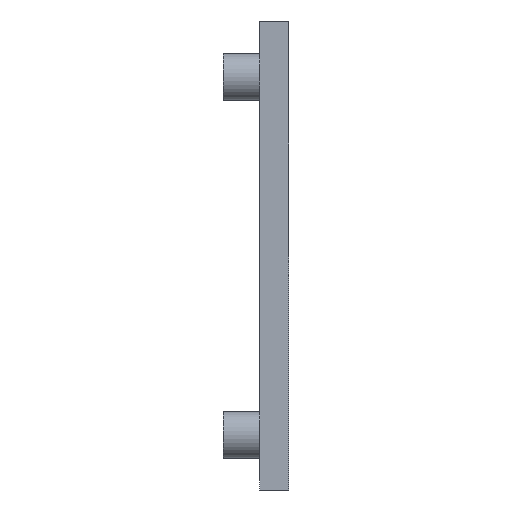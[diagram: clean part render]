
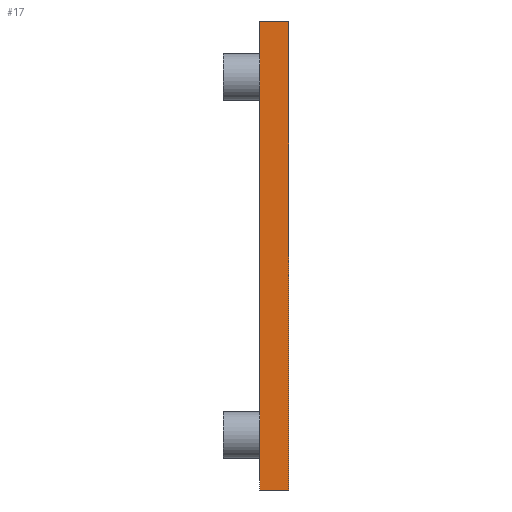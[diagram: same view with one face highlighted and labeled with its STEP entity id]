
A CAD part, left-side view. The second image highlights one B-rep face of the part: STEP entity #17.
In plain terms, the highlighted planar face has unit normal (-1, 0, 0).
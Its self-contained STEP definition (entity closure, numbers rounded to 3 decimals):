
#17 = ADVANCED_FACE('',(#18),#32,.F.);
#18 = FACE_BOUND('',#19,.F.);
#19 = EDGE_LOOP('',(#20,#55,#83,#111));
#20 = ORIENTED_EDGE('',*,*,#21,.F.);
#21 = EDGE_CURVE('',#22,#24,#26,.T.);
#22 = VERTEX_POINT('',#23);
#23 = CARTESIAN_POINT('',(-46.5,-4.,-32.));
#24 = VERTEX_POINT('',#25);
#25 = CARTESIAN_POINT('',(-46.5,-4.,32.));
#26 = SURFACE_CURVE('',#27,(#31,#43),.PCURVE_S1.);
#27 = LINE('',#28,#29);
#28 = CARTESIAN_POINT('',(-46.5,-4.,-32.));
#29 = VECTOR('',#30,1.);
#30 = DIRECTION('',(0.,0.,1.));
#31 = PCURVE('',#32,#37);
#32 = PLANE('',#33);
#33 = AXIS2_PLACEMENT_3D('',#34,#35,#36);
#34 = CARTESIAN_POINT('',(-46.5,-4.,-32.));
#35 = DIRECTION('',(1.,0.,-0.));
#36 = DIRECTION('',(0.,0.,1.));
#37 = DEFINITIONAL_REPRESENTATION('',(#38),#42);
#38 = LINE('',#39,#40);
#39 = CARTESIAN_POINT('',(0.,0.));
#40 = VECTOR('',#41,1.);
#41 = DIRECTION('',(1.,0.));
#42 = ( GEOMETRIC_REPRESENTATION_CONTEXT(2) 
PARAMETRIC_REPRESENTATION_CONTEXT() REPRESENTATION_CONTEXT('2D SPACE',''
  ) );
#43 = PCURVE('',#44,#49);
#44 = PLANE('',#45);
#45 = AXIS2_PLACEMENT_3D('',#46,#47,#48);
#46 = CARTESIAN_POINT('',(-46.5,-4.,-32.));
#47 = DIRECTION('',(-0.,1.,0.));
#48 = DIRECTION('',(0.,0.,1.));
#49 = DEFINITIONAL_REPRESENTATION('',(#50),#54);
#50 = LINE('',#51,#52);
#51 = CARTESIAN_POINT('',(0.,0.));
#52 = VECTOR('',#53,1.);
#53 = DIRECTION('',(1.,0.));
#54 = ( GEOMETRIC_REPRESENTATION_CONTEXT(2) 
PARAMETRIC_REPRESENTATION_CONTEXT() REPRESENTATION_CONTEXT('2D SPACE',''
  ) );
#55 = ORIENTED_EDGE('',*,*,#56,.T.);
#56 = EDGE_CURVE('',#22,#57,#59,.T.);
#57 = VERTEX_POINT('',#58);
#58 = CARTESIAN_POINT('',(-46.5,0.,-32.));
#59 = SURFACE_CURVE('',#60,(#64,#71),.PCURVE_S1.);
#60 = LINE('',#61,#62);
#61 = CARTESIAN_POINT('',(-46.5,-4.,-32.));
#62 = VECTOR('',#63,1.);
#63 = DIRECTION('',(-0.,1.,0.));
#64 = PCURVE('',#32,#65);
#65 = DEFINITIONAL_REPRESENTATION('',(#66),#70);
#66 = LINE('',#67,#68);
#67 = CARTESIAN_POINT('',(0.,0.));
#68 = VECTOR('',#69,1.);
#69 = DIRECTION('',(0.,-1.));
#70 = ( GEOMETRIC_REPRESENTATION_CONTEXT(2) 
PARAMETRIC_REPRESENTATION_CONTEXT() REPRESENTATION_CONTEXT('2D SPACE',''
  ) );
#71 = PCURVE('',#72,#77);
#72 = PLANE('',#73);
#73 = AXIS2_PLACEMENT_3D('',#74,#75,#76);
#74 = CARTESIAN_POINT('',(-46.5,-4.,-32.));
#75 = DIRECTION('',(0.,0.,1.));
#76 = DIRECTION('',(1.,0.,-0.));
#77 = DEFINITIONAL_REPRESENTATION('',(#78),#82);
#78 = LINE('',#79,#80);
#79 = CARTESIAN_POINT('',(0.,0.));
#80 = VECTOR('',#81,1.);
#81 = DIRECTION('',(0.,1.));
#82 = ( GEOMETRIC_REPRESENTATION_CONTEXT(2) 
PARAMETRIC_REPRESENTATION_CONTEXT() REPRESENTATION_CONTEXT('2D SPACE',''
  ) );
#83 = ORIENTED_EDGE('',*,*,#84,.T.);
#84 = EDGE_CURVE('',#57,#85,#87,.T.);
#85 = VERTEX_POINT('',#86);
#86 = CARTESIAN_POINT('',(-46.5,0.,32.));
#87 = SURFACE_CURVE('',#88,(#92,#99),.PCURVE_S1.);
#88 = LINE('',#89,#90);
#89 = CARTESIAN_POINT('',(-46.5,0.,-32.));
#90 = VECTOR('',#91,1.);
#91 = DIRECTION('',(0.,0.,1.));
#92 = PCURVE('',#32,#93);
#93 = DEFINITIONAL_REPRESENTATION('',(#94),#98);
#94 = LINE('',#95,#96);
#95 = CARTESIAN_POINT('',(0.,-4.));
#96 = VECTOR('',#97,1.);
#97 = DIRECTION('',(1.,0.));
#98 = ( GEOMETRIC_REPRESENTATION_CONTEXT(2) 
PARAMETRIC_REPRESENTATION_CONTEXT() REPRESENTATION_CONTEXT('2D SPACE',''
  ) );
#99 = PCURVE('',#100,#105);
#100 = PLANE('',#101);
#101 = AXIS2_PLACEMENT_3D('',#102,#103,#104);
#102 = CARTESIAN_POINT('',(-46.5,0.,-32.));
#103 = DIRECTION('',(-0.,1.,0.));
#104 = DIRECTION('',(0.,0.,1.));
#105 = DEFINITIONAL_REPRESENTATION('',(#106),#110);
#106 = LINE('',#107,#108);
#107 = CARTESIAN_POINT('',(0.,0.));
#108 = VECTOR('',#109,1.);
#109 = DIRECTION('',(1.,0.));
#110 = ( GEOMETRIC_REPRESENTATION_CONTEXT(2) 
PARAMETRIC_REPRESENTATION_CONTEXT() REPRESENTATION_CONTEXT('2D SPACE',''
  ) );
#111 = ORIENTED_EDGE('',*,*,#112,.F.);
#112 = EDGE_CURVE('',#24,#85,#113,.T.);
#113 = SURFACE_CURVE('',#114,(#118,#125),.PCURVE_S1.);
#114 = LINE('',#115,#116);
#115 = CARTESIAN_POINT('',(-46.5,-4.,32.));
#116 = VECTOR('',#117,1.);
#117 = DIRECTION('',(-0.,1.,0.));
#118 = PCURVE('',#32,#119);
#119 = DEFINITIONAL_REPRESENTATION('',(#120),#124);
#120 = LINE('',#121,#122);
#121 = CARTESIAN_POINT('',(64.,0.));
#122 = VECTOR('',#123,1.);
#123 = DIRECTION('',(0.,-1.));
#124 = ( GEOMETRIC_REPRESENTATION_CONTEXT(2) 
PARAMETRIC_REPRESENTATION_CONTEXT() REPRESENTATION_CONTEXT('2D SPACE',''
  ) );
#125 = PCURVE('',#126,#131);
#126 = PLANE('',#127);
#127 = AXIS2_PLACEMENT_3D('',#128,#129,#130);
#128 = CARTESIAN_POINT('',(-46.5,-4.,32.));
#129 = DIRECTION('',(0.,0.,1.));
#130 = DIRECTION('',(1.,0.,-0.));
#131 = DEFINITIONAL_REPRESENTATION('',(#132),#136);
#132 = LINE('',#133,#134);
#133 = CARTESIAN_POINT('',(0.,0.));
#134 = VECTOR('',#135,1.);
#135 = DIRECTION('',(0.,1.));
#136 = ( GEOMETRIC_REPRESENTATION_CONTEXT(2) 
PARAMETRIC_REPRESENTATION_CONTEXT() REPRESENTATION_CONTEXT('2D SPACE',''
  ) );
